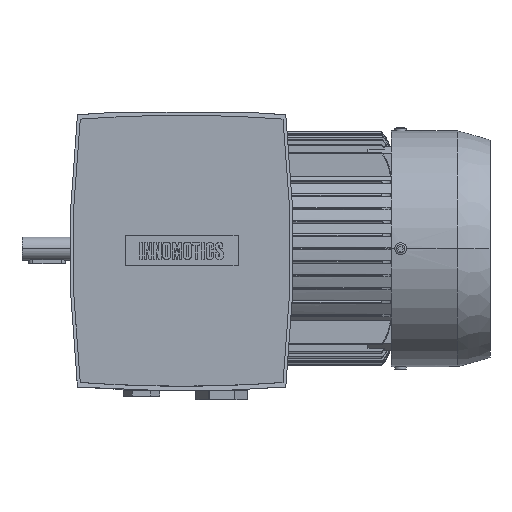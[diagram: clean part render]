
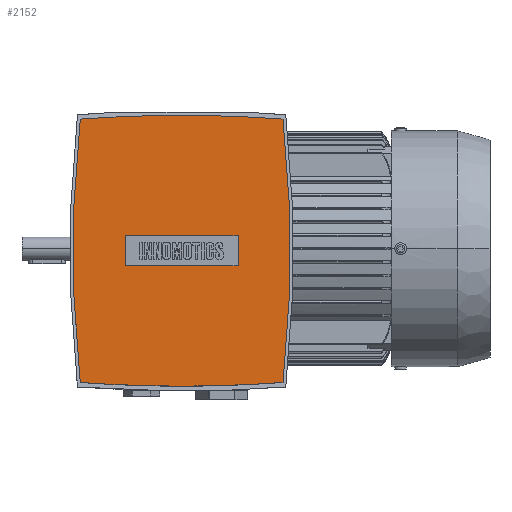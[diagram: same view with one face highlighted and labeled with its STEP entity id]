
A CAD part, top view. The second image highlights one B-rep face of the part: STEP entity #2152.
In plain terms, the highlighted planar face has unit normal (0, 0, 1).
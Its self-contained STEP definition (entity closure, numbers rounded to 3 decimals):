
#2152=ADVANCED_FACE('',(#4658,#4659),#4660,.T.);
#4658=FACE_BOUND('',#7493,.T.);
#4659=FACE_OUTER_BOUND('',#7494,.T.);
#4660=PLANE('',#7495);
#7493=EDGE_LOOP('',(#14227,#14228,#14229,#14230));
#7494=EDGE_LOOP('',(#14231,#14232,#14233,#14234,#14235,#14236));
#7495=AXIS2_PLACEMENT_3D('',#14237,#14238,#14239);
#14227=ORIENTED_EDGE('',*,*,#19550,.T.);
#14228=ORIENTED_EDGE('',*,*,#19554,.T.);
#14229=ORIENTED_EDGE('',*,*,#19557,.T.);
#14230=ORIENTED_EDGE('',*,*,#19559,.T.);
#14231=ORIENTED_EDGE('',*,*,#19627,.T.);
#14232=ORIENTED_EDGE('',*,*,#19618,.T.);
#14233=ORIENTED_EDGE('',*,*,#17438,.T.);
#14234=ORIENTED_EDGE('',*,*,#19614,.T.);
#14235=ORIENTED_EDGE('',*,*,#17423,.T.);
#14236=ORIENTED_EDGE('',*,*,#19625,.T.);
#14237=CARTESIAN_POINT('',(42.5,-1.5,173.0));
#14238=DIRECTION('',(0.0,0.0,1.0));
#14239=DIRECTION('',(0.0,-1.0,0.0));
#17423=EDGE_CURVE('',#21059,#21056,#21060,.T.);
#17438=EDGE_CURVE('',#21081,#21085,#21087,.T.);
#19550=EDGE_CURVE('',#24252,#24250,#24253,.T.);
#19554=EDGE_CURVE('',#24250,#24256,#24258,.T.);
#19557=EDGE_CURVE('',#24256,#24260,#24262,.T.);
#19559=EDGE_CURVE('',#24260,#24252,#24264,.T.);
#19614=EDGE_CURVE('',#21085,#21059,#24341,.T.);
#19618=EDGE_CURVE('',#24345,#21081,#24346,.T.);
#19625=EDGE_CURVE('',#21056,#24353,#24355,.T.);
#19627=EDGE_CURVE('',#24353,#24345,#24357,.T.);
#21056=VERTEX_POINT('',#27145);
#21059=VERTEX_POINT('',#27149);
#21060=CIRCLE('',#27150,828.12);
#21081=VERTEX_POINT('',#27197);
#21085=VERTEX_POINT('',#27202);
#21087=CIRCLE('',#27205,828.12);
#24250=VERTEX_POINT('',#36503);
#24252=VERTEX_POINT('',#36506);
#24253=LINE('',#36507,#36508);
#24256=VERTEX_POINT('',#36512);
#24258=LINE('',#36515,#36516);
#24260=VERTEX_POINT('',#36518);
#24262=LINE('',#36521,#36522);
#24264=LINE('',#36524,#36525);
#24341=CIRCLE('',#36640,717.2);
#24345=VERTEX_POINT('',#36644);
#24346=CIRCLE('',#36645,828.12);
#24353=VERTEX_POINT('',#36654);
#24355=CIRCLE('',#36657,828.12);
#24357=CIRCLE('',#36659,717.2);
#27145=CARTESIAN_POINT('',(42.5,79.5,173.0));
#27149=CARTESIAN_POINT('',(103.161,77.275,173.0));
#27150=AXIS2_PLACEMENT_3D('',#39532,#39533,#39534);
#27197=CARTESIAN_POINT('',(42.5,-82.5,173.0));
#27202=CARTESIAN_POINT('',(103.161,-80.275,173.0));
#27205=AXIS2_PLACEMENT_3D('',#39556,#39557,#39558);
#36503=CARTESIAN_POINT('',(8.75,-10.55,173.0));
#36506=CARTESIAN_POINT('',(76.25,-10.55,173.0));
#36507=CARTESIAN_POINT('',(42.5,-10.55,173.0));
#36508=VECTOR('',#41436,1.0);
#36512=CARTESIAN_POINT('',(8.75,7.55,173.0));
#36515=CARTESIAN_POINT('',(8.75,-1.5,173.0));
#36516=VECTOR('',#41439,1.0);
#36518=CARTESIAN_POINT('',(76.25,7.55,173.0));
#36521=CARTESIAN_POINT('',(42.5,7.55,173.0));
#36522=VECTOR('',#41441,1.0);
#36524=CARTESIAN_POINT('',(76.25,-1.5,173.0));
#36525=VECTOR('',#41442,1.0);
#36640=AXIS2_PLACEMENT_3D('',#41523,#41524,#41525);
#36644=CARTESIAN_POINT('',(-18.161,-80.275,173.0));
#36645=AXIS2_PLACEMENT_3D('',#41529,#41530,#41531);
#36654=CARTESIAN_POINT('',(-18.161,77.275,173.0));
#36657=AXIS2_PLACEMENT_3D('',#41538,#41539,#41540);
#36659=AXIS2_PLACEMENT_3D('',#41541,#41542,#41543);
#39532=CARTESIAN_POINT('',(42.5,-748.62,173.0));
#39533=DIRECTION('',(0.0,-0.0,1.0));
#39534=DIRECTION('',(0.0,1.0,0.0));
#39556=CARTESIAN_POINT('',(42.5,745.62,173.0));
#39557=DIRECTION('',(0.0,-0.0,1.0));
#39558=DIRECTION('',(0.0,1.0,0.0));
#41436=DIRECTION('',(-1.0,0.0,0.0));
#41439=DIRECTION('',(0.0,1.0,0.0));
#41441=DIRECTION('',(1.0,0.0,-0.0));
#41442=DIRECTION('',(0.0,-1.0,0.0));
#41523=CARTESIAN_POINT('',(-609.7,-1.5,173.0));
#41524=DIRECTION('',(0.0,-0.0,1.0));
#41525=DIRECTION('',(0.0,1.0,0.0));
#41529=CARTESIAN_POINT('',(42.5,745.62,173.0));
#41530=DIRECTION('',(0.0,-0.0,1.0));
#41531=DIRECTION('',(0.0,1.0,0.0));
#41538=CARTESIAN_POINT('',(42.5,-748.62,173.0));
#41539=DIRECTION('',(0.0,-0.0,1.0));
#41540=DIRECTION('',(0.0,1.0,0.0));
#41541=CARTESIAN_POINT('',(694.7,-1.5,173.0));
#41542=DIRECTION('',(0.0,-0.0,1.0));
#41543=DIRECTION('',(0.0,1.0,0.0));
